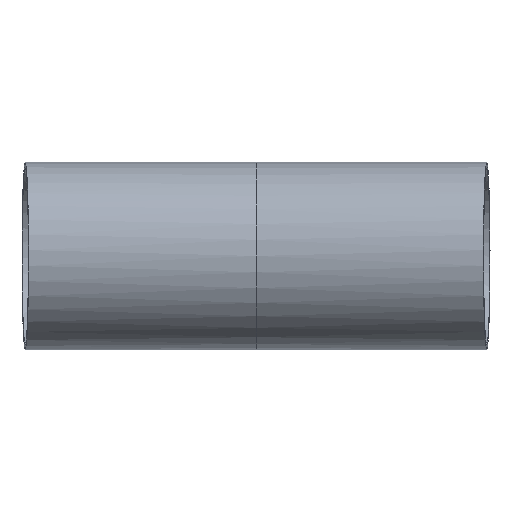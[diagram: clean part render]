
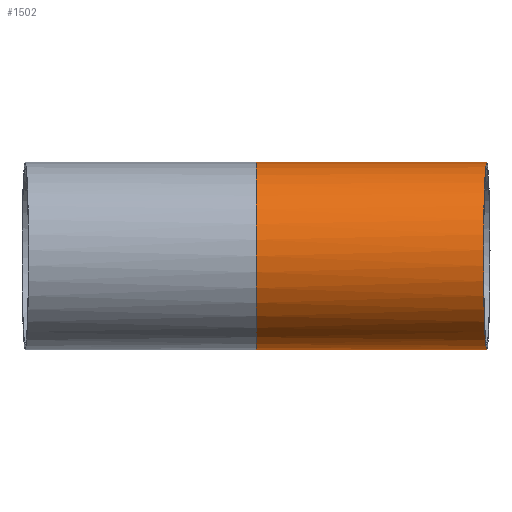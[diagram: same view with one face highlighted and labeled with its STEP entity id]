
A CAD part, front view. The second image highlights one B-rep face of the part: STEP entity #1502.
In plain terms, the highlighted free-form (B-spline) face has degree [3, 1] with [4, 2] control points.
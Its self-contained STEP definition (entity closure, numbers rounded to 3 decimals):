
#2 = CARTESIAN_POINT ( 'NONE',  ( 77.554, -19.514, -26.957 ) ) ;
#6 = CARTESIAN_POINT ( 'NONE',  ( 77.585, -18.627, -27.491 ) ) ;
#11 = CARTESIAN_POINT ( 'NONE',  ( 77.649, -16.793, -28.475 ) ) ;
#17 = CARTESIAN_POINT ( 'NONE',  ( 77.783, -12.961, -30.124 ) ) ;
#23 = CARTESIAN_POINT ( 'NONE',  ( 77.852, -10.984, -30.725 ) ) ;
#30 = CARTESIAN_POINT ( 'NONE',  ( 77.958, -7.937, -31.336 ) ) ;
#31 = CARTESIAN_POINT ( 'NONE',  ( 77.466, -22.031, 25.196 ) ) ;
#38 = CARTESIAN_POINT ( 'NONE',  ( 77.994, -6.906, -31.491 ) ) ;
#39 = CARTESIAN_POINT ( 'NONE',  ( 77.495, -21.194, 25.818 ) ) ;
#44 = CARTESIAN_POINT ( 'NONE',  ( 78.067, -4.821, -31.698 ) ) ;
#50 = CARTESIAN_POINT ( 'NONE',  ( 78.103, -3.776, -31.75 ) ) ;
#51 = CARTESIAN_POINT ( 'NONE',  ( 77.51, -20.769, 26.117 ) ) ;
#56 = CARTESIAN_POINT ( 'NONE',  ( 78.14, -2.729, -31.75 ) ) ;
#58 = CARTESIAN_POINT ( 'NONE',  ( 77.585, -18.615, 27.557 ) ) ;
#63 = CARTESIAN_POINT ( 'NONE',  ( 77.649, -16.793, 28.533 ) ) ;
#83 = CARTESIAN_POINT ( 'NONE',  ( 77.749, -13.913, 29.728 ) ) ;
#106 = CARTESIAN_POINT ( 'NONE',  ( 77.033, -34.439, 2.091 ) ) ;
#111 = CARTESIAN_POINT ( 'NONE',  ( 77.033, -34.441, -1.014 ) ) ;
#113 = CARTESIAN_POINT ( 'NONE',  ( 77.034, -34.391, -2.051 ) ) ;
#120 = CARTESIAN_POINT ( 'NONE',  ( 77.04, -34.239, -3.612 ) ) ;
#132 = CARTESIAN_POINT ( 'NONE',  ( 77.042, -34.175, -4.133 ) ) ;
#150 =( BOUNDED_SURFACE ( )  B_SPLINE_SURFACE ( 3, 1, ( 
 ( #584, #570 ),
 ( #565, #456 ),
 ( #450, #441 ),
 ( #436, #423 ) ),
 .UNSPECIFIED., .F., .F., .F. ) 
 B_SPLINE_SURFACE_WITH_KNOTS ( ( 4, 4 ),
 ( 2, 2 ),
 ( 0., 1. ),
 ( 0., 1. ),
 .UNSPECIFIED. ) 
 GEOMETRIC_REPRESENTATION_ITEM ( )  RATIONAL_B_SPLINE_SURFACE ( (
 ( 1., 1.),
 ( 0.333, 0.333),
 ( 0.333, 0.333),
 ( 1., 1.) ) ) 
 REPRESENTATION_ITEM ( '' )  SURFACE ( )  );
#181 = CARTESIAN_POINT ( 'NONE',  ( 78.14, -2.729, -31.75 ) ) ;
#186 = ORIENTED_EDGE ( 'NONE', *, *, #454, .F. ) ;
#193 = CARTESIAN_POINT ( 'NONE',  ( 77.784, -12.922, 30.083 ) ) ;
#198 = CARTESIAN_POINT ( 'NONE',  ( 77.854, -10.93, 30.688 ) ) ;
#203 = CARTESIAN_POINT ( 'NONE',  ( 77.889, -9.925, 30.939 ) ) ;
#224 = CARTESIAN_POINT ( 'NONE',  ( 78.14, -2.729, 31.75 ) ) ;
#269 = CARTESIAN_POINT ( 'NONE',  ( 77.682, -15.843, -28.927 ) ) ;
#296 = ORIENTED_EDGE ( 'NONE', *, *, #622, .F. ) ;
#319 = CARTESIAN_POINT ( 'NONE',  ( 0., 0., 0. ) ) ;
#324 = DIRECTION ( 'NONE',  ( -1., 0., 0. ) ) ;
#326 = DIRECTION ( 'NONE',  ( 0., -1., 0. ) ) ;
#359 = LINE ( 'NONE', #843, #1286 ) ;
#385 = CARTESIAN_POINT ( 'NONE',  ( 77.047, -34.022, -5.165 ) ) ;
#395 = CARTESIAN_POINT ( 'NONE',  ( 78.14, -2.729, 31.75 ) ) ;
#403 = ORIENTED_EDGE ( 'NONE', *, *, #1067, .F. ) ;
#423 = CARTESIAN_POINT ( 'NONE',  ( 0., 0., -31.75 ) ) ;
#429 = CARTESIAN_POINT ( 'NONE',  ( 77.05, -33.933, -5.677 ) ) ;
#436 = CARTESIAN_POINT ( 'NONE',  ( 78.609, -2.745, -31.75 ) ) ;
#440 = CARTESIAN_POINT ( 'NONE',  ( 77.068, -33.428, -8.222 ) ) ;
#441 = CARTESIAN_POINT ( 'NONE',  ( 0., -63.5, -31.75 ) ) ;
#449 = CARTESIAN_POINT ( 'NONE',  ( 77.995, -6.885, 31.544 ) ) ;
#450 = CARTESIAN_POINT ( 'NONE',  ( 78.609, -66.245, -31.75 ) ) ;
#454 = EDGE_CURVE ( 'NONE', #668, #1561, #1469, .T. ) ;
#455 = CARTESIAN_POINT ( 'NONE',  ( 77.089, -32.831, -10.2 ) ) ;
#456 = CARTESIAN_POINT ( 'NONE',  ( 0., -63.5, 31.75 ) ) ;
#467 = CARTESIAN_POINT ( 'NONE',  ( 77.123, -31.84, -12.602 ) ) ;
#502 = CARTESIAN_POINT ( 'NONE',  ( 77.131, -31.629, -13.079 ) ) ;
#537 = FACE_OUTER_BOUND ( 'NONE', #1740, .T. ) ;
#565 = CARTESIAN_POINT ( 'NONE',  ( 78.609, -66.245, 31.75 ) ) ;
#570 = CARTESIAN_POINT ( 'NONE',  ( 0., 0., 31.75 ) ) ;
#581 = DIRECTION ( 'NONE',  ( -0.999, 0.035, 0. ) ) ;
#584 = CARTESIAN_POINT ( 'NONE',  ( 78.609, -2.745, 31.75 ) ) ;
#588 = CARTESIAN_POINT ( 'NONE',  ( 39.304, -1.373, -31.75 ) ) ;
#607 = CARTESIAN_POINT ( 'NONE',  ( 78.067, -4.824, 31.75 ) ) ;
#622 = EDGE_CURVE ( 'NONE', #1807, #1768, #799, .T. ) ;
#668 = VERTEX_POINT ( 'NONE', #395 ) ;
#740 = ORIENTED_EDGE ( 'NONE', *, *, #1131, .F. ) ;
#763 = CARTESIAN_POINT ( 'NONE',  ( 77.146, -31.183, -14.025 ) ) ;
#776 = CARTESIAN_POINT ( 'NONE',  ( 77.155, -30.948, -14.494 ) ) ;
#784 = CARTESIAN_POINT ( 'NONE',  ( 77.18, -30.212, -15.873 ) ) ;
#793 = CARTESIAN_POINT ( 'NONE',  ( 77.199, -29.68, -16.763 ) ) ;
#799 = CIRCLE ( 'NONE', #1430, 31.75 ) ;
#814 = CARTESIAN_POINT ( 'NONE',  ( 77.259, -27.96, -19.344 ) ) ;
#843 = CARTESIAN_POINT ( 'NONE',  ( 39.304, -1.373, 31.75 ) ) ;
#857 = DIRECTION ( 'NONE',  ( 0.999, -0.035, 0. ) ) ;
#960 = CARTESIAN_POINT ( 'NONE',  ( 0., 0., -31.75 ) ) ;
#1067 = EDGE_CURVE ( 'NONE', #1561, #1807, #1575, .T. ) ;
#1131 = EDGE_CURVE ( 'NONE', #1768, #668, #359, .T. ) ;
#1206 = CARTESIAN_POINT ( 'NONE',  ( 77.305, -26.65, -20.948 ) ) ;
#1220 = CARTESIAN_POINT ( 'NONE',  ( 77.382, -24.433, -23.172 ) ) ;
#1226 = CARTESIAN_POINT ( 'NONE',  ( 77.409, -23.66, -23.873 ) ) ;
#1238 = CARTESIAN_POINT ( 'NONE',  ( 77.465, -22.06, -25.19 ) ) ;
#1255 = CARTESIAN_POINT ( 'NONE',  ( 77.451, -22.444, 24.874 ) ) ;
#1273 = CARTESIAN_POINT ( 'NONE',  ( 77.494, -21.23, -25.807 ) ) ;
#1286 = VECTOR ( 'NONE', #857, 1000. ) ;
#1429 = CARTESIAN_POINT ( 'NONE',  ( 77.199, -29.66, 16.771 ) ) ;
#1430 = AXIS2_PLACEMENT_3D ( 'NONE', #319, #324, #326 ) ;
#1436 = CARTESIAN_POINT ( 'NONE',  ( 77.209, -29.379, 17.215 ) ) ;
#1456 = CARTESIAN_POINT ( 'NONE',  ( 77.26, -27.931, 19.384 ) ) ;
#1469 = B_SPLINE_CURVE_WITH_KNOTS ( 'NONE', 3,
 ( #224, #607, #449, #203, #198, #193, #83, #63, #58, #51, #39, #31, #1255, #1566, #1497, #1472, #1456, #1436, #1429, #1545, #1541, #1538, #1532, #1528, #1522, #1517, #1750, #1824, #1720, #106, #111, #113, #120, #132, #385, #429, #440, #455, #467, #502, #763, #776, #784, #793, #814, #1206, #1220, #1226, #1238, #1273, #2, #6, #11, #269, #17, #23, #30, #38, #44, #50, #56 ),
 .UNSPECIFIED., .F., .F.,
 ( 4, 2, 2, 2, 2, 2, 2, 2, 2, 2, 2, 1, 2, 2, 2, 2, 2, 2, 2, 2, 2, 2, 2, 2, 2, 2, 2, 2, 2, 2, 4 ),
 ( 0., 0.006, 0.009, 0.012, 0.019, 0.02, 0.022, 0.025, 0.031, 0.033, 0.034, 0.037, 0.04, 0.042, 0.043, 0.05, 0.053, 0.054, 0.056, 0.062, 0.064, 0.065, 0.068, 0.074, 0.078, 0.081, 0.084, 0.087, 0.093, 0.096, 0.099 ),
 .UNSPECIFIED. ) ;
#1472 = CARTESIAN_POINT ( 'NONE',  ( 77.306, -26.618, 20.982 ) ) ;
#1497 = CARTESIAN_POINT ( 'NONE',  ( 77.382, -24.425, 23.179 ) ) ;
#1502 = ADVANCED_FACE ( 'NONE', ( #537 ), #150, .F. ) ;
#1517 = CARTESIAN_POINT ( 'NONE',  ( 77.07, -33.359, 8.236 ) ) ;
#1522 = CARTESIAN_POINT ( 'NONE',  ( 77.075, -33.22, 8.737 ) ) ;
#1528 = CARTESIAN_POINT ( 'NONE',  ( 77.091, -32.768, 10.228 ) ) ;
#1532 = CARTESIAN_POINT ( 'NONE',  ( 77.115, -32.07, 12.175 ) ) ;
#1538 = CARTESIAN_POINT ( 'NONE',  ( 77.146, -31.187, 14.047 ) ) ;
#1541 = CARTESIAN_POINT ( 'NONE',  ( 77.172, -30.453, 15.421 ) ) ;
#1545 = CARTESIAN_POINT ( 'NONE',  ( 77.181, -30.197, 15.874 ) ) ;
#1561 = VERTEX_POINT ( 'NONE', #181 ) ;
#1566 = CARTESIAN_POINT ( 'NONE',  ( 77.409, -23.656, 23.878 ) ) ;
#1575 = LINE ( 'NONE', #588, #1577 ) ;
#1577 = VECTOR ( 'NONE', #581, 1000. ) ;
#1586 = CARTESIAN_POINT ( 'NONE',  ( 0., 0., 31.75 ) ) ;
#1720 = CARTESIAN_POINT ( 'NONE',  ( 77.04, -34.237, 4.15 ) ) ;
#1740 = EDGE_LOOP ( 'NONE', ( #740, #296, #403, #186 ) ) ;
#1750 = CARTESIAN_POINT ( 'NONE',  ( 77.061, -33.613, 7.223 ) ) ;
#1768 = VERTEX_POINT ( 'NONE', #1586 ) ;
#1807 = VERTEX_POINT ( 'NONE', #960 ) ;
#1824 = CARTESIAN_POINT ( 'NONE',  ( 77.057, -33.728, 6.71 ) ) ;
